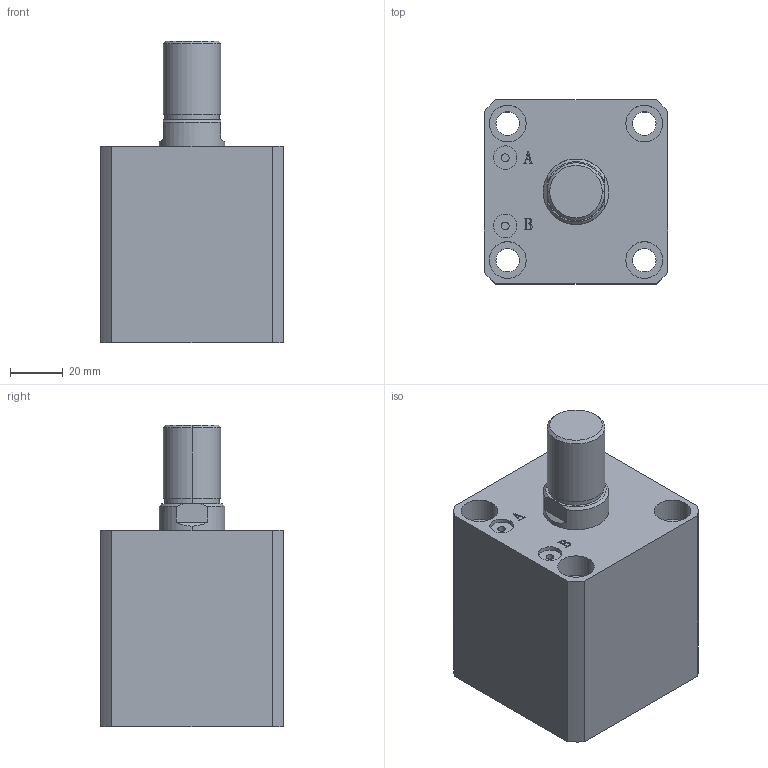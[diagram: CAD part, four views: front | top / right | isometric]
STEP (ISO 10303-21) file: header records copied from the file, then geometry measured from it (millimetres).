
FILE_DESCRIPTION (( 'STEP AP203' ), '1' );
FILE_NAME ('HTB-SDMA40-20W.STEP', '2019-10-07T11:51:12', ( '微软用户' ), ( '微软中国' ), 'SwSTEP 2.0', 'SolidWorks 2012', '' );
FILE_SCHEMA (( 'CONFIG_CONTROL_DESIGN' ));
Length unit declared in the file: millimetre
Products named in the file (3): HTB-SDMA40-20W; HTB-SDMA40-20W活塞杆; HTB-SDMA40-20掛极
Assembly tree (2 placements, depth 2):
  HTB-SDMA40-20W
    HTB-SDMA40-20掛极
    HTB-SDMA40-20W活塞杆
Bounding box: 70 x 70 x 115 mm (x, y, z)
Volume: 339372.3 mm3; surface area: 59171.3 mm2
Topology: 2 solids, 2 shells, 141 faces, 337 edges, 222 vertices
Faces by surface type: plane 67, cylinder 48, bspline 16, torus 6, cone 4
Entity records: 5180 total; most frequent: CARTESIAN_POINT 1597, ORIENTED_EDGE 674, DIRECTION 669, EDGE_CURVE 337, AXIS2_PLACEMENT_3D 242, VERTEX_POINT 222, VECTOR 185, LINE 185
